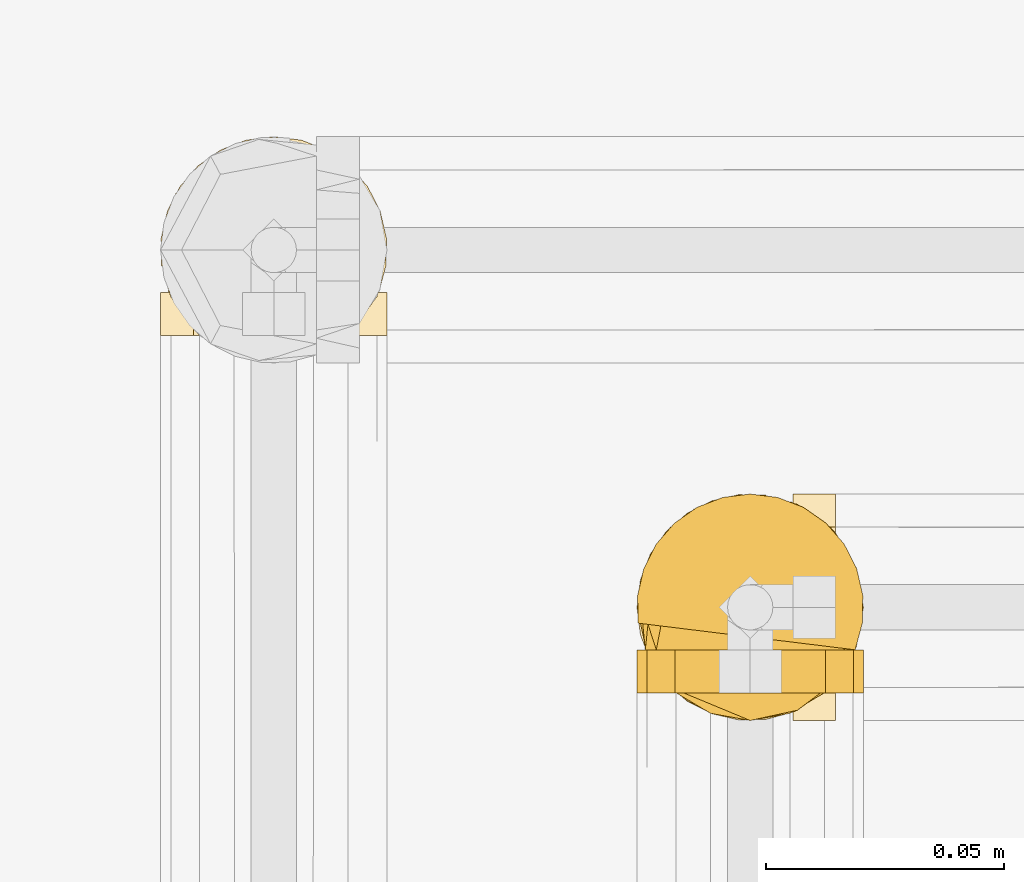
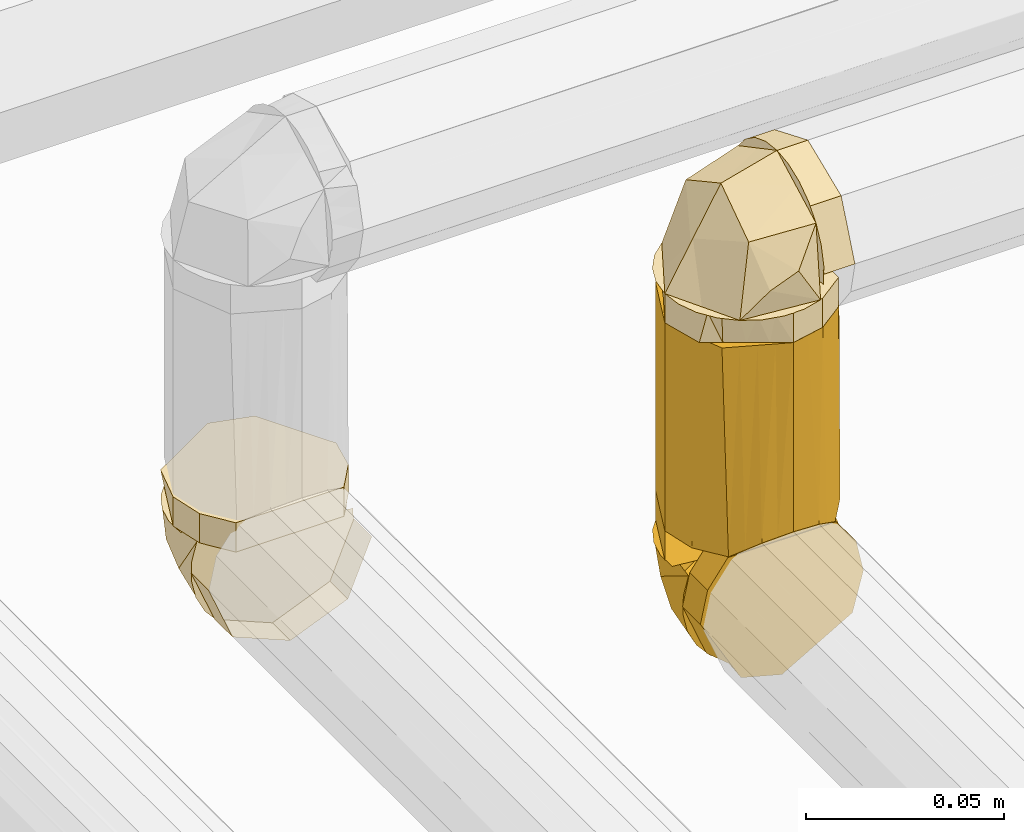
# One storey, part 350 of 652: 4 coverings.
"""IFC2X3 building model written with IfcOpenShell, lengths in millimetres."""

from ifc_helpers import new_model, entity, si_unit, converted_unit, direction, frame, origin, place, context, subcontext, project, spatial, face_set, faceted_brep, surface_model, material, type_object, element, save


model = new_model("IFC2X3")

# Units and contexts
model_context = context("Model", 3, precision=0.01, world=frame((0.0, 0.0, 308426.39999999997)), true_north=direction((6.123233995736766e-17, 1.0)))
plan_context = context("Plan", 3, precision=0.01, world=frame((0.0, 0.0, 308426.39999999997)), true_north=direction((6.123233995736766e-17, 1.0)))
body_context = subcontext(model_context, "Body", "Model", "MODEL_VIEW")
ifc_project = project(units=[si_unit("LENGTHUNIT", "METRE", prefix="MILLI"), si_unit("AREAUNIT", "SQUARE_METRE"), si_unit("VOLUMEUNIT", "CUBIC_METRE"), converted_unit("PLANEANGLEUNIT", "DEGREE", entity("IfcPlaneAngleMeasure", 0.017453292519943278), si_unit("PLANEANGLEUNIT", "RADIAN"), dimensions=[0, 0, 0, 0, 0, 0, 0])], contexts=[model_context, plan_context])

# Site, building, storey
site_placement = place(None, origin())
site = spatial("IfcSite", under=ifc_project, at=site_placement, Name="Default", CompositionType="ELEMENT")
building_placement = place(site_placement, origin())
building = spatial("IfcBuilding", under=site, at=building_placement, CompositionType="ELEMENT")
storey_placement = place(building_placement, frame((0.0, 0.0, 1730.6999999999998)))
storey = spatial("IfcBuildingStorey", under=building, at=storey_placement, Name="EG_Produktion_FFB", CompositionType="ELEMENT", Elevation=1730.6999999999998)

# Coverings
ifc_material = material(Name="Dämmung - Armaflex-Schlauch")
covering_type = type_object("IfcCoveringType", Name="Rohrdämmung außen:Armaflex-Schlauch", PredefinedType="INSULATION")
covering_1_placement = place(storey_placement, frame((48124.642227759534, 40574.64222776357, 3780.611079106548)))
element("IfcCovering", 1, at=covering_1_placement, inside=storey, type_object=covering_type, material=ifc_material, Name="Rohrdämmung außen:Armaflex-Schlauch", ObjectType="Rohrdämmung außen:Armaflex-Schlauch", PredefinedType="INSULATION", context=body_context, shape_type="SurfaceModel", body=[
    surface_model("IfcFaceBasedSurfaceModel", [(34.28827223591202, 47.37827577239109, 10.458420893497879), (34.28827223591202, 1.8303409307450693, 16.054796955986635), (34.28827223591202, 1.7230119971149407, 21.84951324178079), (34.28827223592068, 3.0216666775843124, 27.4978539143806), (34.28827223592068, 5.649050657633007, 32.66381072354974), (34.28827223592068, 9.448866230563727, 37.04007144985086), (34.28827223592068, 14.19507012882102, 40.3663012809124), (34.28827223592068, 19.605320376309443, 42.444629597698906), (34.28827223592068, 25.35777223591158, 43.15142089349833), (34.28827223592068, 31.11022409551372, 42.444629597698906), (34.28827223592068, 36.52047434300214, 40.3663012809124), (34.28827223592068, 41.266678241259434, 37.04007144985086), (34.28827223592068, 45.06649381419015, 32.66381072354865), (34.28827223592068, 47.69387779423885, 27.497853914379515), (34.28827223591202, 48.99253247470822, 21.84951324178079), (34.28827223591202, 48.88520354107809, 16.054796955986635), (34.28827223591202, 3.3372686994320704, 10.458420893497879), (28.691896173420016, 1.8303409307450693, 10.458420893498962), (22.897179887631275, 1.7230119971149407, 10.458420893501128), (17.248839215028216, 3.0216666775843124, 10.45842089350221), (12.082882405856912, 5.649050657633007, 10.458420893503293), (7.706621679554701, 9.448866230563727, 10.458420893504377), (4.380391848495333, 14.19507012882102, 10.458420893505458), (2.302063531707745, 19.605320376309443, 10.458420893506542), (1.5952722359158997, 25.35777223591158, 10.458420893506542), (2.302063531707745, 31.11022409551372, 10.458420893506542), (4.380391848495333, 36.52047434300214, 10.458420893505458), (7.706621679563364, 41.266678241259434, 10.458420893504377), (12.082882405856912, 45.06649381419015, 10.458420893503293), (17.248839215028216, 47.69387779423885, 10.45842089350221), (22.897179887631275, 48.99253247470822, 10.458420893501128), (28.691896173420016, 48.88520354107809, 10.458420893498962), (19.381905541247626, 47.71543825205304, 18.580452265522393), (16.865780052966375, 41.21816042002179, 30.59541655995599), (23.316549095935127, 46.236458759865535, 10.45827361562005), (34.287972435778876, 35.097603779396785, 37.968803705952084), (17.940133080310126, 25.358663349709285, 38.77166167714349), (6.838485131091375, 35.213875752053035, 10.45827361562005), (9.140670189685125, 25.358663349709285, 23.52666198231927), (27.209334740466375, 48.57585084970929, 22.523816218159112), (34.287972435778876, 46.222506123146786, 21.56108428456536), (19.381905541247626, 2.9972375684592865, 18.580452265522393), (27.209334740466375, 2.1414758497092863, 22.523816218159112), (16.865780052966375, 9.499166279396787, 30.59541655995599), (34.287972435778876, 15.619722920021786, 37.968803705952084), (23.316549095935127, 4.480867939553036, 10.45827361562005), (6.778023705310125, 15.619722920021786, 10.45827361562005), (9.768538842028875, 25.358663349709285, 24.614967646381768), (34.287972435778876, 4.4948205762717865, 21.56108428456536), (43.30602663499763, 49.120003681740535, 19.389123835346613), (34.287972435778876, 49.120003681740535, 19.389123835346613), (34.287972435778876, 42.16228883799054, 36.1915866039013), (43.30602663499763, 42.16228883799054, 36.1915866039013), (34.287972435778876, 25.358663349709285, 43.15162688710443), (43.30602663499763, 25.358663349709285, 43.15162688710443), (34.287972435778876, 8.555037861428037, 36.1915866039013), (43.30602663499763, 8.555037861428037, 36.1915866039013), (34.287972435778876, 1.5973230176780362, 19.389123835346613), (43.30602663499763, 1.5973230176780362, 19.389123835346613), (20.213040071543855, 4.565584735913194, 1.4386708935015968), (15.068307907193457, 7.535897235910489, 1.4386708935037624), (9.923575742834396, 10.506209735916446, 1.4386708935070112), (4.7788435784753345, 13.47652223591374, 1.4386708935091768), (3.1870579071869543, 19.417147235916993, 1.4386708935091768), (1.5952722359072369, 25.35777223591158, 1.4386708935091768), (4.565584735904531, 30.50250440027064, 1.4386708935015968), (7.535897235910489, 35.6472365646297, 1.4386708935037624), (10.50620973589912, 40.7919687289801, 1.4386708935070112), (13.476522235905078, 45.936700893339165, 1.4386708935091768), (19.417147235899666, 47.52848656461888, 1.4386708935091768), (25.357772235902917, 49.12027223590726, 1.4386708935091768), (30.236452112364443, 48.0724235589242, 1.4386708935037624), (35.11513198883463, 47.024574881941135, 1.4386708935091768), (39.133276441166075, 44.06585567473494, 1.4386708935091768), (43.151420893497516, 41.107136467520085, 1.4386708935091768), (43.151420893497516, 9.608408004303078, 1.4386708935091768), (39.133276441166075, 6.64968879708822, 1.4386708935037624), (35.11513198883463, 3.690969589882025, 1.4386708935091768), (30.236452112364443, 2.6431209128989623, 1.4386708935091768), (25.357772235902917, 1.5952722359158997, 1.4386708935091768), (8.555147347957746, 8.55514734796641, 10.458420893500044), (12.755803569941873, 6.815178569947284, 10.458420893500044), (16.956459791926, 5.075209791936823, 10.458420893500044), (21.15711601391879, 3.3352410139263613, 10.458420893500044), (25.357772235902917, 1.5952722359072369, 10.458420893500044), (30.236452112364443, 2.6431209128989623, 10.458420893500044), (35.11513198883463, 3.690969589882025, 10.458420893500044), (39.24189562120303, 6.729669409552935, 10.458420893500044), (43.151420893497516, 9.608408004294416, 10.458420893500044), (43.151420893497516, 41.107136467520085, 10.458420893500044), (39.133276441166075, 44.06585567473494, 10.458420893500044), (35.11513198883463, 47.02457488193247, 10.458420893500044), (30.10457078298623, 48.10074918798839, 10.458420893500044), (25.357772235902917, 49.12027223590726, 10.458420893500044), (21.157116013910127, 47.3803034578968, 10.458420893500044), (16.956459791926, 45.64033467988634, 10.458420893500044), (12.755803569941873, 43.90036590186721, 10.458420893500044), (8.555147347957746, 42.160397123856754, 10.458420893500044), (6.815178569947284, 37.95974090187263, 10.458420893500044), (5.075209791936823, 33.759084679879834, 10.458420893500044), (3.3352410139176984, 29.558428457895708, 10.458420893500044), (1.5952722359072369, 25.35777223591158, 10.458420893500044), (3.3352410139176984, 21.157116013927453, 10.458420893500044), (5.075209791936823, 16.956459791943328, 10.458420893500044), (6.815178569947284, 12.755803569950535, 10.458420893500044)], [face_set([[[0, 1, 2, 3, 4, 5, 6, 7, 8, 9, 10, 11, 12, 13, 14, 15]], [[16, 17, 18, 19, 20, 21, 22, 23, 24, 25, 26, 27, 28, 29, 30, 31]], [[32, 28, 33]], [[32, 34, 28]], [[33, 35, 12]], [[35, 33, 36]], [[36, 8, 35]], [[33, 37, 38]], [[39, 12, 40, 0]], [[32, 33, 39]], [[34, 32, 0]], [[12, 39, 33]], [[38, 36, 33]], [[0, 32, 39]], [[33, 28, 37]], [[37, 24, 38]], [[41, 16, 42]], [[43, 44, 36]], [[20, 45, 41]], [[46, 43, 47]], [[44, 8, 36]], [[4, 43, 42]], [[44, 43, 4]], [[42, 16, 48]], [[20, 43, 46]], [[16, 41, 45]], [[43, 41, 42]], [[43, 36, 47]], [[47, 24, 46]], [[20, 41, 43]], [[48, 4, 42]]]), face_set([[[49, 50, 51, 52]], [[53, 54, 52, 51]], [[54, 53, 55, 56]], [[57, 58, 56, 55]]]), face_set([[[59, 60, 61, 62, 63, 64, 65, 66, 67, 68, 69, 70, 71, 72, 73, 74, 75, 76, 77, 78, 79]], [[80, 81, 82, 83, 84, 85, 86, 87, 88, 89, 90, 91, 92, 93, 94, 95, 96, 97, 98, 99, 100, 101, 102, 103, 104]], [[75, 74, 89, 88]], [[71, 70, 93, 92, 91, 72]], [[73, 72, 91, 90, 89, 74]], [[96, 67, 97]], [[64, 100, 65]], [[100, 99, 65]], [[69, 95, 94]], [[94, 93, 70]], [[67, 96, 68]], [[66, 99, 98]], [[64, 101, 100]], [[99, 66, 65]], [[70, 69, 94]], [[98, 97, 67]], [[96, 95, 68]], [[69, 68, 95]], [[66, 98, 67]], [[104, 61, 80]], [[79, 83, 59]], [[83, 82, 59]], [[63, 103, 102]], [[102, 101, 64]], [[61, 104, 62]], [[60, 82, 81]], [[79, 84, 83]], [[82, 60, 59]], [[64, 63, 102]], [[81, 80, 61]], [[104, 103, 62]], [[63, 62, 103]], [[60, 81, 61]], [[76, 75, 88, 87, 86, 77]], [[78, 77, 86, 85, 84, 79]]])]),
])
covering_2_placement = place(storey_placement, frame((48124.64222775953, 40574.64222776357, 3716.35497776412)))
element("IfcCovering", 2, at=covering_2_placement, inside=storey, type_object=covering_type, material=ifc_material, Name="Rohrdämmung außen:Armaflex-Schlauch", ObjectType="Rohrdämmung außen:Armaflex-Schlauch", PredefinedType="INSULATION", context=body_context, shape_type="Brep", body=[
    faceted_brep([(43.30802223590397, 9.78712898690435, 65.69477223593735), (43.30802223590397, 40.92841548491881, 65.69477223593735), (39.267438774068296, 43.951164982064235, 65.69477223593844), (35.22685531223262, 46.97391447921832, 65.69477223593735), (30.292313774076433, 48.047093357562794, 65.69477223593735), (25.35777223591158, 49.12027223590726, 65.69477223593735), (20.400263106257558, 47.06680471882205, 65.69477223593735), (16.956459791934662, 45.64033467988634, 65.69477223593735), (12.755803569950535, 43.90036590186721, 65.69477223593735), (8.55514734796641, 42.160397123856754, 65.69477223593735), (6.815178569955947, 37.95974090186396, 65.69477223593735), (5.075209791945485, 33.759084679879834, 65.69477223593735), (3.3352410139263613, 29.558428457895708, 65.69477223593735), (1.5952722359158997, 25.35777223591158, 65.69477223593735), (3.3352410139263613, 21.157116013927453, 65.69477223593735), (5.075209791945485, 16.956459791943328, 65.69477223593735), (6.815178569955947, 12.755803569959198, 65.69477223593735), (8.55514734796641, 8.55514734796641, 65.69477223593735), (12.755803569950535, 6.815178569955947, 65.69477223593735), (16.956459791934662, 5.075209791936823, 65.69477223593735), (21.157116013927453, 3.3352410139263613, 65.69477223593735), (25.35777223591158, 1.5952722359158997, 65.69477223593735), (30.292313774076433, 2.6684511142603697, 65.69477223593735), (35.22685531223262, 3.7416299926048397, 65.69477223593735), (39.267438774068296, 6.764379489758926, 65.69477223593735), (40.92841548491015, 7.407522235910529, 1.595272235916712), (9.787128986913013, 7.407522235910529, 1.595272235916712), (6.764379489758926, 11.4481056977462, 1.595272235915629), (3.7416299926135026, 15.488689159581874, 1.595272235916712), (2.6684511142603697, 20.423230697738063, 1.595272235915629), (1.5952722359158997, 25.35777223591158, 1.595272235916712), (3.648739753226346, 30.31528136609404, 1.595272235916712), (5.702207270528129, 35.27279049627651, 1.595272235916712), (8.55514734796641, 42.160397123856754, 1.595272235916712), (12.755803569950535, 43.90036590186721, 1.595272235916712), (16.956459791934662, 45.64033467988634, 1.595272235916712), (21.157116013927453, 47.3803034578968, 1.595272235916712), (25.35777223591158, 49.12027223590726, 1.595272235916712), (30.315281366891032, 47.066804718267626, 1.595272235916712), (33.759084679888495, 45.64033467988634, 1.595272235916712), (37.95974090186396, 43.90036590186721, 1.595272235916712), (42.160397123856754, 42.160397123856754, 1.595272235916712), (43.90036590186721, 37.95974090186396, 1.595272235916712), (45.640334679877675, 33.759084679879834, 1.595272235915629), (47.38030345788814, 29.558428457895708, 1.595272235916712), (49.12027223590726, 25.35777223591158, 1.595272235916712), (48.047093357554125, 20.423230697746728, 1.595272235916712), (46.97391447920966, 15.488689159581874, 1.595272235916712), (43.951164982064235, 11.4481056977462, 1.595272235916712), (21.202751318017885, 2.345488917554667, 6.657305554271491), (25.35777223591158, 1.5952722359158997, 7.407522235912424), (13.417429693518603, 5.251613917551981, 3.7511805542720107), (17.04773040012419, 3.095705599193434, 5.907088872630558), (37.29811477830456, 5.251613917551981, 3.7511805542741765), (33.66781407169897, 3.095705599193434, 5.907088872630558), (30.746379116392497, 2.568221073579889, 6.434573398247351), (48.37005555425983, 21.202751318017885, 60.63273891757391), (49.12027223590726, 25.35777223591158, 59.882522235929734), (45.46393055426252, 13.41742969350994, 63.53886391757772), (47.61983887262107, 17.04773040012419, 61.38295559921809), (48.37005555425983, 29.512793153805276, 60.63273891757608), (45.46393055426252, 37.29811477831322, 63.53886391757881), (47.61983887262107, 33.66781407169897, 61.38295559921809)], [[[0, 1, 2, 3, 4, 5, 6, 7, 8, 9, 10, 11, 12, 13, 14, 15, 16, 17, 18, 19, 20, 21, 22, 23, 24]], [[25, 26, 27, 28, 29, 30, 31, 32, 33, 34, 35, 36, 37, 38, 39, 40, 41, 42, 43, 44, 45, 46, 47, 48]], [[30, 14, 13]], [[14, 30, 29]], [[49, 50, 21]], [[29, 15, 14]], [[26, 17, 27]], [[29, 28, 15]], [[51, 52, 19]], [[18, 26, 51]], [[19, 52, 20]], [[28, 27, 16]], [[28, 16, 15]], [[49, 21, 20]], [[17, 26, 18]], [[20, 52, 49]], [[27, 17, 16]], [[51, 19, 18]], [[53, 25, 24]], [[54, 22, 50, 55]], [[22, 54, 23]], [[50, 22, 21]], [[53, 24, 23]], [[0, 25, 48]], [[56, 45, 57]], [[23, 54, 53]], [[58, 0, 48]], [[59, 47, 46]], [[47, 59, 58]], [[25, 0, 24]], [[47, 58, 48]], [[56, 59, 46]], [[45, 56, 46]], [[45, 60, 57]], [[40, 39, 3]], [[60, 45, 44]], [[1, 42, 41]], [[61, 43, 42]], [[41, 2, 1]], [[39, 4, 3]], [[61, 62, 43]], [[43, 62, 44]], [[37, 4, 39, 38]], [[42, 1, 61]], [[40, 3, 2]], [[2, 41, 40]], [[44, 62, 60]], [[37, 5, 4]], [[30, 13, 12, 11, 10, 9, 33, 32, 31]], [[8, 7, 6, 5, 37, 36, 35, 34, 33, 9]], [[0, 58, 59, 56, 57, 60, 62, 61, 1]], [[25, 53, 54, 55, 50, 49, 52, 51, 26]]]),
])
covering_3_placement = place(storey_placement, frame((48124.64222775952, 40580.611079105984, 3674.642227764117)))
element("IfcCovering", 3, at=covering_3_placement, inside=storey, type_object=covering_type, material=ifc_material, Name="Rohrdämmung außen:Armaflex-Schlauch", ObjectType="Rohrdämmung außen:Armaflex-Schlauch", PredefinedType="INSULATION", context=body_context, shape_type="SurfaceModel", body=[
    surface_model("IfcFaceBasedSurfaceModel", [(47.37827577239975, 10.458420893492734, 34.2882722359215), (48.88520354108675, 16.054796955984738, 34.28827223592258), (48.99253247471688, 21.84951324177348, 34.288272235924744), (47.69387779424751, 27.497853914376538, 34.288272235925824), (45.066493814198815, 32.66381072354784, 34.28827223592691), (41.266678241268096, 37.04007144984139, 34.28827223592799), (36.520474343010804, 40.36630128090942, 34.28827223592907), (31.110224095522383, 42.44462959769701, 34.28827223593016), (25.357772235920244, 43.151420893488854, 34.28827223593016), (19.605320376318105, 42.44462959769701, 34.28827223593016), (14.195070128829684, 40.36630128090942, 34.28827223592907), (9.44886623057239, 37.04007144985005, 34.28827223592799), (5.649050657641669, 32.66381072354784, 34.28827223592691), (3.0216666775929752, 27.497853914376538, 34.288272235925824), (1.7230119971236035, 21.84951324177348, 34.288272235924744), (1.8303409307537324, 16.054796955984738, 34.28827223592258), (3.3372686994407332, 10.458420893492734, 34.2882722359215), (1.8303409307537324, 10.458420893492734, 28.69189617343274), (1.7230119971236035, 10.458420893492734, 22.897179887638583), (3.0216666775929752, 10.458420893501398, 17.248839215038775), (5.649050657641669, 10.458420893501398, 12.082882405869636), (9.44886623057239, 10.458420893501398, 7.706621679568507), (14.195070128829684, 10.458420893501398, 4.3803918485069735), (19.605320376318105, 10.458420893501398, 2.3020635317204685), (25.357772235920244, 10.458420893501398, 1.5952722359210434), (31.110224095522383, 10.458420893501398, 2.3020635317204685), (36.520474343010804, 10.458420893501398, 4.3803918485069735), (41.266678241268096, 10.458420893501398, 7.706621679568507), (45.066493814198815, 10.458420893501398, 12.08288240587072), (47.69387779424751, 10.458420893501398, 17.248839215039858), (48.99253247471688, 10.458420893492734, 22.897179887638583), (48.88520354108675, 10.458420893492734, 28.69189617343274), (47.71505983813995, 18.580559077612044, 19.38130434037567), (41.2177820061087, 30.593779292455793, 16.866922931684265), (46.23608034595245, 10.460124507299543, 23.31478517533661), (35.0972253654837, 37.9700732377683, 34.288533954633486), (25.358284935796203, 38.77002440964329, 17.941857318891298), (35.21349733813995, 10.460124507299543, 6.839046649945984), (25.358284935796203, 23.524443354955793, 9.140068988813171), (48.5754724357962, 22.524504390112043, 27.20815217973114), (46.2221277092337, 21.561772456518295, 34.288533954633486), (2.9968591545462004, 18.580559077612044, 19.38130434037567), (2.1410974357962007, 22.524504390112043, 27.20815217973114), (9.4987878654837, 30.593779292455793, 16.866922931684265), (15.619344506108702, 37.9700732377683, 34.288533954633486), (4.480489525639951, 10.460124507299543, 23.31478517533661), (15.619344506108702, 10.460124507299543, 6.778003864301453), (25.358284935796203, 24.612749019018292, 9.768519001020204), (4.494442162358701, 21.561772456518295, 34.288533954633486), (49.11962526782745, 19.389812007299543, 43.3077508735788), (49.11962526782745, 19.389812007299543, 34.288533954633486), (42.161910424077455, 36.193437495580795, 34.288533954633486), (42.161910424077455, 36.193437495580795, 43.3077508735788), (25.358284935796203, 43.15115233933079, 34.288533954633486), (25.358284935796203, 43.15115233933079, 43.3077508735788), (8.55465944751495, 36.193437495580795, 34.288533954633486), (8.55465944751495, 36.193437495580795, 43.3077508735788), (1.5969446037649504, 19.389812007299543, 34.288533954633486), (1.5969446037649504, 19.389812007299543, 43.3077508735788), (4.565584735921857, 1.4386708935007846, 20.213040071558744), (7.5358972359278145, 1.4386708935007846, 15.06830790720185), (10.50620973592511, 1.4386708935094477, 9.923575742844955), (13.476522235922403, 1.4386708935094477, 4.7788435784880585), (19.417147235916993, 1.4386708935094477, 3.1870579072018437), (25.357772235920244, 1.4386708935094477, 1.595272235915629), (30.502504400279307, 1.4386708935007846, 4.565584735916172), (35.6472365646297, 1.4386708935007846, 7.535897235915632), (40.79196872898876, 1.4386708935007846, 10.506209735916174), (45.936700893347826, 1.4386708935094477, 13.476522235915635), (47.528486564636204, 1.4386708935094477, 19.41714723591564), (49.12027223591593, 1.4386708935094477, 25.35777223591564), (48.07242355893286, 1.4386708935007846, 30.236452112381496), (47.024574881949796, 1.4386708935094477, 35.11513198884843), (44.06585567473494, 1.4386708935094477, 39.13327644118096), (41.10713646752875, 1.4386708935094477, 43.15142089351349), (9.608408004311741, 1.4386708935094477, 43.15142089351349), (6.649688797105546, 1.4386708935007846, 39.13327644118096), (3.690969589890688, 1.4386708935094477, 35.11513198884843), (2.643120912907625, 1.4386708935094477, 30.236452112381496), (1.5952722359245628, 1.4386708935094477, 25.35777223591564), (8.55514734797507, 10.458420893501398, 8.55514734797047), (6.81517856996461, 10.458420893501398, 12.755803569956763), (5.075209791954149, 10.458420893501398, 16.956459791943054), (3.335241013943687, 10.458420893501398, 21.157116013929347), (1.5952722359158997, 10.458420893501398, 25.35777223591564), (2.643120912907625, 10.458420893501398, 30.236452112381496), (3.690969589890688, 10.458420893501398, 35.11513198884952), (6.729669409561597, 10.458420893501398, 39.241895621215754), (9.608408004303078, 10.458420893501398, 43.15142089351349), (41.10713646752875, 10.458420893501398, 43.15142089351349), (44.06585567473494, 10.458420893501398, 39.13327644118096), (47.024574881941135, 10.458420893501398, 35.11513198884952), (48.10074918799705, 10.458420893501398, 30.104570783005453), (49.12027223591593, 10.458420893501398, 25.35777223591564), (47.3803034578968, 10.458420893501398, 21.157116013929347), (45.64033467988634, 10.458420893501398, 16.956459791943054), (43.90036590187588, 10.458420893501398, 12.755803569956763), (42.160397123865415, 10.458420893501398, 8.55514734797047), (37.95974090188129, 10.458420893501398, 6.8151785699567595), (33.759084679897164, 10.458420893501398, 5.075209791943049), (29.55842845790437, 10.458420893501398, 3.335241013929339), (25.357772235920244, 10.458420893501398, 1.595272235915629), (21.157116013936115, 10.458420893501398, 3.335241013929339), (16.956459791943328, 10.458420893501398, 5.075209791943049), (12.755803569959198, 10.458420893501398, 6.8151785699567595)], [face_set([[[0, 1, 2, 3, 4, 5, 6, 7, 8, 9, 10, 11, 12, 13, 14, 15]], [[16, 17, 18, 19, 20, 21, 22, 23, 24, 25, 26, 27, 28, 29, 30, 31]], [[32, 28, 33]], [[32, 34, 28]], [[33, 35, 4]], [[35, 33, 36]], [[36, 8, 35]], [[33, 37, 38]], [[39, 4, 40]], [[32, 33, 39]], [[34, 32, 0]], [[4, 39, 33]], [[38, 36, 33]], [[0, 32, 39]], [[33, 28, 37]], [[37, 24, 38]], [[0, 39, 40]], [[41, 16, 42]], [[43, 44, 36]], [[20, 45, 41]], [[46, 43, 47]], [[44, 8, 36]], [[12, 43, 42]], [[44, 43, 12]], [[42, 16, 48]], [[20, 43, 46]], [[16, 41, 45]], [[43, 41, 42]], [[43, 36, 47]], [[47, 24, 46]], [[20, 41, 43]], [[48, 12, 42]]]), face_set([[[49, 50, 51, 52]], [[53, 54, 52, 51]], [[54, 53, 55, 56]], [[57, 58, 56, 55]]]), face_set([[[59, 60, 61, 62, 63, 64, 65, 66, 67, 68, 69, 70, 71, 72, 73, 74, 75, 76, 77, 78, 79]], [[80, 81, 82, 83, 84, 85, 86, 87, 88, 89, 90, 91, 92, 93, 94, 95, 96, 97, 98, 99, 100, 101, 102, 103, 104]], [[75, 74, 89, 88]], [[71, 70, 93, 92, 91, 72]], [[73, 72, 91, 90, 89, 74]], [[96, 67, 97]], [[64, 100, 65]], [[100, 99, 65]], [[69, 95, 94]], [[94, 93, 70]], [[67, 96, 68]], [[66, 99, 98]], [[64, 101, 100]], [[99, 66, 65]], [[70, 69, 94]], [[98, 97, 67]], [[96, 95, 68]], [[69, 68, 95]], [[66, 98, 67]], [[104, 61, 80]], [[79, 83, 59]], [[83, 82, 59]], [[63, 103, 102]], [[102, 101, 64]], [[61, 104, 62]], [[60, 82, 81]], [[79, 84, 83]], [[82, 60, 59]], [[64, 63, 102]], [[81, 80, 61]], [[104, 103, 62]], [[63, 62, 103]], [[60, 81, 61]], [[76, 75, 88, 87, 86, 77]], [[78, 77, 86, 85, 84, 79]]])]),
])
covering_4_placement = place(storey_placement, frame((48024.64222776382, 40655.611079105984, 3674.642227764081)))
element("IfcCovering", 4, at=covering_4_placement, inside=storey, type_object=covering_type, material=ifc_material, Name="Rohrdämmung außen:Armaflex-Schlauch", ObjectType="Rohrdämmung außen:Armaflex-Schlauch", PredefinedType="INSULATION", context=body_context, shape_type="SurfaceModel", body=[
    surface_model("IfcFaceBasedSurfaceModel", [(3.3372686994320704, 10.458420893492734, 34.28827223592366), (1.8303409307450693, 10.458420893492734, 28.691896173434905), (1.7230119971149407, 10.458420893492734, 22.89717988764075), (3.0216666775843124, 10.458420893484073, 17.248839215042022), (5.649050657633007, 10.458420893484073, 12.082882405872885), (9.448866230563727, 10.458420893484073, 7.706621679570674), (14.19507012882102, 10.458420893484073, 4.38039184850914), (19.605320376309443, 10.458420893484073, 2.3020635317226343), (25.35777223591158, 10.458420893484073, 1.5952722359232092), (31.11022409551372, 10.458420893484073, 2.3020635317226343), (36.52047434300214, 10.458420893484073, 4.38039184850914), (41.266678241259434, 10.458420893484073, 7.706621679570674), (45.06649381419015, 10.458420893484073, 12.082882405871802), (47.69387779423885, 10.458420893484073, 17.248839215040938), (48.99253247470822, 10.458420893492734, 22.89717988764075), (48.88520354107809, 10.458420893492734, 28.691896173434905), (47.37827577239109, 10.458420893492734, 34.28827223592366), (48.88520354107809, 16.054796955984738, 34.28827223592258), (48.99253247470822, 21.84951324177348, 34.28827223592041), (47.69387779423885, 27.497853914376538, 34.28827223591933), (45.06649381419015, 32.66381072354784, 34.28827223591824), (41.266678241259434, 37.04007144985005, 34.28827223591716), (36.52047434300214, 40.36630128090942, 34.28827223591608), (31.11022409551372, 42.44462959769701, 34.288272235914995), (25.35777223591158, 43.151420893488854, 34.288272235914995), (19.605320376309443, 42.44462959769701, 34.288272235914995), (14.19507012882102, 40.36630128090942, 34.28827223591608), (9.448866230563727, 37.04007144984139, 34.28827223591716), (5.649050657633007, 32.66381072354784, 34.28827223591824), (3.0216666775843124, 27.497853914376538, 34.28827223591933), (1.7230119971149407, 21.84951324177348, 34.28827223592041), (1.8303409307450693, 16.054796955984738, 34.28827223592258), (2.9983117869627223, 25.36626464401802, 26.166355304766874), (9.500240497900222, 27.87773925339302, 14.151391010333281), (4.481942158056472, 21.43162108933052, 34.28853395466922), (15.616146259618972, 10.46019774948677, 6.778003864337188), (25.359737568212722, 26.80338622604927, 5.975145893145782), (15.504525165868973, 37.90968505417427, 34.28853395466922), (25.359737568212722, 35.60749999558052, 21.220145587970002), (2.1378991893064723, 17.538835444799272, 22.22299135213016), (4.4912439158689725, 10.46019774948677, 23.185723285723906), (47.716512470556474, 25.36626464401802, 26.166355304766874), (48.576925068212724, 17.538835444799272, 22.22299135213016), (41.214583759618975, 27.87773925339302, 14.151391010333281), (35.098677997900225, 10.46019774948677, 6.778003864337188), (46.237532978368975, 21.43162108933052, 34.28853395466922), (35.098677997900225, 37.970146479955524, 34.28853395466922), (25.359737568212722, 34.97963134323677, 20.1318399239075), (46.223580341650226, 10.46019774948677, 23.185723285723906), (1.5937463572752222, 1.4374926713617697, 25.357683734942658), (1.5937463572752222, 10.46019774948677, 25.357683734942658), (8.556112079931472, 10.46019774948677, 8.555220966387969), (8.556112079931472, 1.4374926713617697, 8.555220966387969), (25.359737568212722, 10.46019774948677, 1.5951806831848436), (25.359737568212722, 1.4374926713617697, 1.5951806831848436), (42.158712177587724, 10.46019774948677, 8.555220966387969), (42.158712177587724, 1.4374926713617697, 8.555220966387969), (49.121077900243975, 10.46019774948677, 25.357683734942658), (49.121077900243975, 1.4374926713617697, 25.357683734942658), (46.14995973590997, 24.5336530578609, 43.30802223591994), (43.179647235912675, 29.67838522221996, 43.308022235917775), (40.209334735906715, 34.82311738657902, 43.30802223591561), (37.239022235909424, 39.96784955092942, 43.30802223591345), (31.29839723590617, 41.55963522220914, 43.30802223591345), (25.35777223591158, 43.151420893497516, 43.30802223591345), (20.21304007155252, 40.181108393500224, 43.30802223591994), (15.068307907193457, 37.210795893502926, 43.308022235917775), (9.92357574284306, 34.24048339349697, 43.30802223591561), (4.778843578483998, 31.270170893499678, 43.30802223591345), (3.1870579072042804, 25.329545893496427, 43.30802223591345), (1.5952722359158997, 19.388920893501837, 43.30802223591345), (2.6431209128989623, 14.51024101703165, 43.308022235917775), (3.690969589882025, 9.631561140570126, 43.30802223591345), (6.64968879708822, 5.613416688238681, 43.30802223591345), (9.608408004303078, 1.5952722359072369, 43.30802223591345), (41.107136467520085, 1.5952722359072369, 43.30802223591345), (44.06585567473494, 5.613416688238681, 43.308022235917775), (47.024574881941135, 9.631561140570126, 43.30802223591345), (48.0724235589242, 14.51024101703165, 43.30802223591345), (49.12027223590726, 19.388920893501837, 43.30802223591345), (42.160397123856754, 36.19154578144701, 34.2882722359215), (43.90036590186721, 31.990889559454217, 34.2882722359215), (45.64033467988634, 27.79023333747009, 34.2882722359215), (47.3803034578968, 23.589577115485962, 34.2882722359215), (49.12027223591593, 19.388920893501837, 34.2882722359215), (48.0724235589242, 14.51024101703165, 34.2882722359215), (47.024574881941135, 9.631561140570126, 34.2882722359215), (43.985875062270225, 5.504797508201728, 34.2882722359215), (41.10713646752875, 1.5952722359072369, 34.2882722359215), (9.608408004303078, 1.5952722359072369, 34.2882722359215), (6.64968879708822, 5.613416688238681, 34.2882722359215), (3.690969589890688, 9.631561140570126, 34.2882722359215), (2.614795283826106, 14.642122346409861, 34.2882722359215), (1.5952722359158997, 19.388920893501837, 34.2882722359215), (3.3352410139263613, 23.589577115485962, 34.2882722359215), (5.075209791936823, 27.79023333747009, 34.2882722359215), (6.815178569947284, 31.990889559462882, 34.2882722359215), (8.55514734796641, 36.19154578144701, 34.2882722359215), (12.755803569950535, 37.93151455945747, 34.2882722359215), (16.956459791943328, 39.671483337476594, 34.2882722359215), (21.157116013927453, 41.41145211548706, 34.2882722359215), (25.35777223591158, 43.151420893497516, 34.2882722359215), (29.558428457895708, 41.41145211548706, 34.2882722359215), (33.759084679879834, 39.671483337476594, 34.2882722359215), (37.95974090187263, 37.93151455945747, 34.2882722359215)], [face_set([[[0, 1, 2, 3, 4, 5, 6, 7, 8, 9, 10, 11, 12, 13, 14, 15]], [[16, 17, 18, 19, 20, 21, 22, 23, 24, 25, 26, 27, 28, 29, 30, 31]], [[32, 28, 33]], [[32, 34, 28]], [[33, 35, 4]], [[35, 33, 36]], [[36, 8, 35]], [[33, 37, 38]], [[39, 4, 40]], [[32, 33, 39]], [[34, 32, 0]], [[4, 39, 33]], [[38, 36, 33]], [[0, 32, 39]], [[33, 28, 37]], [[37, 24, 38]], [[0, 39, 40]], [[41, 16, 42]], [[43, 44, 36]], [[20, 45, 41]], [[46, 43, 47]], [[44, 8, 36]], [[12, 43, 42]], [[44, 43, 12]], [[42, 16, 48]], [[20, 43, 46]], [[16, 41, 45]], [[43, 41, 42]], [[43, 36, 47]], [[47, 24, 46]], [[20, 41, 43]], [[48, 12, 42]]]), face_set([[[49, 50, 51, 52]], [[53, 54, 52, 51]], [[54, 53, 55, 56]], [[57, 58, 56, 55]]]), face_set([[[59, 60, 61, 62, 63, 64, 65, 66, 67, 68, 69, 70, 71, 72, 73, 74, 75, 76, 77, 78, 79]], [[80, 81, 82, 83, 84, 85, 86, 87, 88, 89, 90, 91, 92, 93, 94, 95, 96, 97, 98, 99, 100, 101, 102, 103, 104]], [[75, 74, 89, 88]], [[71, 70, 93, 92, 91, 72]], [[73, 72, 91, 90, 89, 74]], [[96, 67, 97]], [[64, 100, 65]], [[100, 99, 65]], [[69, 95, 94]], [[94, 93, 70]], [[67, 96, 68]], [[66, 99, 98]], [[64, 101, 100]], [[99, 66, 65]], [[70, 69, 94]], [[98, 97, 67]], [[96, 95, 68]], [[69, 68, 95]], [[66, 98, 67]], [[104, 61, 80]], [[79, 83, 59]], [[83, 82, 59]], [[63, 103, 102]], [[102, 101, 64]], [[61, 104, 62]], [[60, 82, 81]], [[79, 84, 83]], [[82, 60, 59]], [[64, 63, 102]], [[81, 80, 61]], [[104, 103, 62]], [[63, 62, 103]], [[60, 81, 61]], [[76, 75, 88, 87, 86, 77]], [[78, 77, 86, 85, 84, 79]]])]),
])

save(model, "model.ifc")
